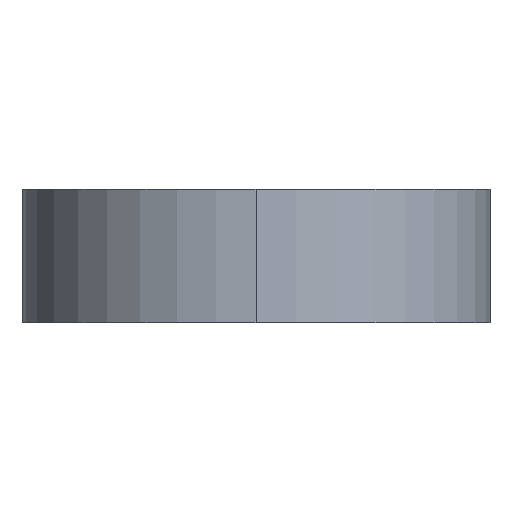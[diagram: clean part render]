
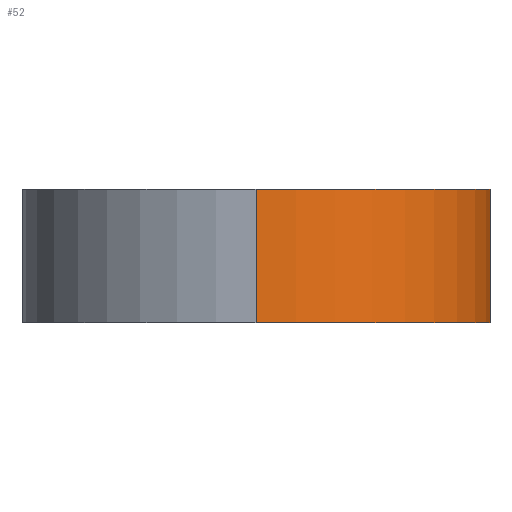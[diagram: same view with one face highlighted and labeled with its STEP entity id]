
A CAD part, left-side view. The second image highlights one B-rep face of the part: STEP entity #52.
In plain terms, the highlighted cylindrical face has radius 3.5 mm (diameter 7 mm), a partial arc.
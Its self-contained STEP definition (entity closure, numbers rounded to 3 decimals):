
#52=ADVANCED_FACE('',(#74),#75,.T.);
#74=FACE_OUTER_BOUND('',#118,.T.);
#75=CYLINDRICAL_SURFACE('',#119,3.5);
#118=EDGE_LOOP('',(#167,#168,#169,#170));
#119=AXIS2_PLACEMENT_3D('',#171,#172,#173);
#167=ORIENTED_EDGE('',*,*,#318,.F.);
#168=ORIENTED_EDGE('',*,*,#319,.T.);
#169=ORIENTED_EDGE('',*,*,#320,.F.);
#170=ORIENTED_EDGE('',*,*,#321,.T.);
#171=CARTESIAN_POINT('',(-26.25,29.75,0.));
#172=DIRECTION('',(0.0,0.,-1.0));
#173=DIRECTION('',(1.0,0.0,0.0));
#318=EDGE_CURVE('',#370,#371,#372,.T.);
#319=EDGE_CURVE('',#370,#373,#374,.T.);
#320=EDGE_CURVE('',#375,#373,#376,.T.);
#321=EDGE_CURVE('',#375,#371,#377,.T.);
#370=VERTEX_POINT('',#452);
#371=VERTEX_POINT('',#453);
#372=LINE('',#454,#455);
#373=VERTEX_POINT('',#456);
#374=CIRCLE('',#457,3.5);
#375=VERTEX_POINT('',#458);
#376=LINE('',#459,#460);
#377=CIRCLE('',#461,3.5);
#452=CARTESIAN_POINT('',(-29.75,29.75,-2.0));
#453=CARTESIAN_POINT('',(-29.75,29.75,0.));
#454=CARTESIAN_POINT('',(-29.75,29.75,0.));
#455=VECTOR('',#558,1.0);
#456=CARTESIAN_POINT('',(-25.115,26.439,-2.0));
#457=AXIS2_PLACEMENT_3D('',#559,#560,#561);
#458=CARTESIAN_POINT('',(-25.115,26.439,0.));
#459=CARTESIAN_POINT('',(-25.115,26.439,0.));
#460=VECTOR('',#562,0.066);
#461=AXIS2_PLACEMENT_3D('',#563,#564,#565);
#558=DIRECTION('',(-0.0,0.,1.0));
#559=CARTESIAN_POINT('',(-26.25,29.75,-2.0));
#560=DIRECTION('',(-0.0,0.,1.0));
#561=DIRECTION('',(1.0,0.0,0.0));
#562=DIRECTION('',(0.0,0.,-1.0));
#563=CARTESIAN_POINT('',(-26.25,29.75,0.));
#564=DIRECTION('',(0.0,0.,-1.0));
#565=DIRECTION('',(1.0,0.0,0.0));
